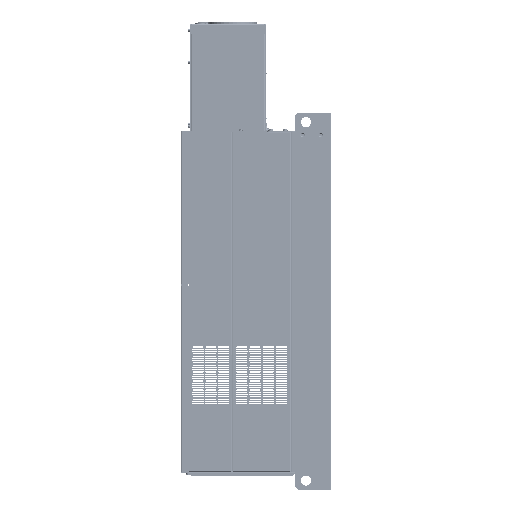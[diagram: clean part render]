
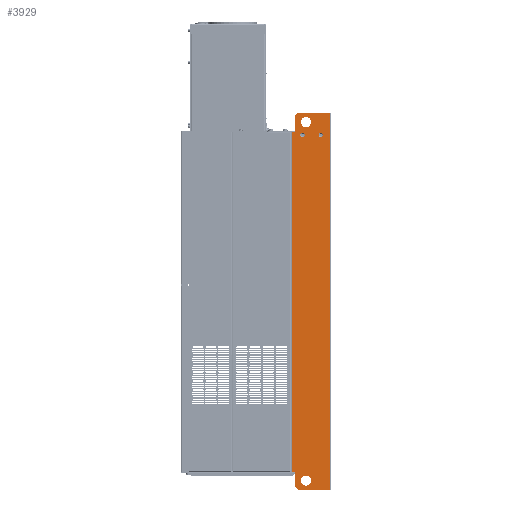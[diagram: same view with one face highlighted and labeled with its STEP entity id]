
A CAD part, left-side view. The second image highlights one B-rep face of the part: STEP entity #3929.
In plain terms, the highlighted planar face has unit normal (-1, 0, 0).
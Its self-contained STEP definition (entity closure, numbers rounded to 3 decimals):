
#670=DIRECTION('',(0.,0.,-1.));
#671=VECTOR('',#670,901.6);
#672=CARTESIAN_POINT('',(-250.,104.3,450.));
#673=LINE('',#672,#671);
#687=DIRECTION('',(0.,1.,0.));
#688=VECTOR('',#687,8.);
#689=CARTESIAN_POINT('',(-250.,96.3,450.));
#690=LINE('',#689,#688);
#695=CARTESIAN_POINT('',(-250.,81.3,485.));
#696=DIRECTION('',(1.,0.,0.));
#697=DIRECTION('',(0.,1.,0.));
#698=AXIS2_PLACEMENT_3D('',#695,#696,#697);
#700=DIRECTION('',(0.,-1.,0.));
#701=VECTOR('',#700,77.3);
#702=CARTESIAN_POINT('',(-250.,81.3,500.));
#703=LINE('',#702,#701);
#704=DIRECTION('',(0.,1.,0.));
#705=VECTOR('',#704,77.3);
#706=CARTESIAN_POINT('',(-250.,4.,-500.));
#707=LINE('',#706,#705);
#708=CARTESIAN_POINT('',(-250.,81.3,-485.));
#709=DIRECTION('',(1.,0.,0.));
#710=DIRECTION('',(0.,0.,-1.));
#711=AXIS2_PLACEMENT_3D('',#708,#709,#710);
#713=DIRECTION('',(0.,1.,0.));
#714=VECTOR('',#713,8.);
#715=CARTESIAN_POINT('',(-250.,96.3,-451.6));
#716=LINE('',#715,#714);
#717=CARTESIAN_POINT('',(-250.,66.3,475.));
#718=DIRECTION('',(-1.,0.,0.));
#719=DIRECTION('',(0.,0.,-1.));
#720=AXIS2_PLACEMENT_3D('',#717,#718,#719);
#722=CARTESIAN_POINT('',(-250.,66.3,475.));
#723=DIRECTION('',(-1.,0.,0.));
#724=DIRECTION('',(0.,0.,1.));
#725=AXIS2_PLACEMENT_3D('',#722,#723,#724);
#727=CARTESIAN_POINT('',(-250.,66.3,-475.));
#728=DIRECTION('',(-1.,0.,0.));
#729=DIRECTION('',(0.,0.,-1.));
#730=AXIS2_PLACEMENT_3D('',#727,#728,#729);
#732=CARTESIAN_POINT('',(-250.,66.3,-475.));
#733=DIRECTION('',(-1.,0.,0.));
#734=DIRECTION('',(0.,0.,1.));
#735=AXIS2_PLACEMENT_3D('',#732,#733,#734);
#737=CARTESIAN_POINT('',(-250.,69.424,440.986));
#738=CARTESIAN_POINT('',(-250.,69.441,441.818));
#739=CARTESIAN_POINT('',(-250.,69.728,443.294));
#740=CARTESIAN_POINT('',(-250.,71.072,445.287));
#741=CARTESIAN_POINT('',(-250.,72.942,446.53));
#742=CARTESIAN_POINT('',(-250.,75.213,447.021));
#743=CARTESIAN_POINT('',(-250.,77.493,446.601));
#744=CARTESIAN_POINT('',(-250.,79.411,445.391));
#745=CARTESIAN_POINT('',(-250.,80.809,443.48));
#746=CARTESIAN_POINT('',(-250.,81.137,441.88));
#747=CARTESIAN_POINT('',(-250.,81.176,441.014));
#749=CARTESIAN_POINT('',(-250.,81.176,441.014));
#750=CARTESIAN_POINT('',(-250.,81.159,440.182));
#751=CARTESIAN_POINT('',(-250.,80.872,438.706));
#752=CARTESIAN_POINT('',(-250.,79.528,436.713));
#753=CARTESIAN_POINT('',(-250.,77.658,435.47));
#754=CARTESIAN_POINT('',(-250.,75.387,434.979));
#755=CARTESIAN_POINT('',(-250.,73.107,435.399));
#756=CARTESIAN_POINT('',(-250.,71.189,436.609));
#757=CARTESIAN_POINT('',(-250.,69.791,438.52));
#758=CARTESIAN_POINT('',(-250.,69.463,440.12));
#759=CARTESIAN_POINT('',(-250.,69.424,440.986));
#761=CARTESIAN_POINT('',(-250.,21.424,440.986));
#762=CARTESIAN_POINT('',(-250.,21.441,441.818));
#763=CARTESIAN_POINT('',(-250.,21.728,443.294));
#764=CARTESIAN_POINT('',(-250.,23.072,445.287));
#765=CARTESIAN_POINT('',(-250.,24.942,446.53));
#766=CARTESIAN_POINT('',(-250.,27.213,447.021));
#767=CARTESIAN_POINT('',(-250.,29.493,446.601));
#768=CARTESIAN_POINT('',(-250.,31.411,445.391));
#769=CARTESIAN_POINT('',(-250.,32.809,443.48));
#770=CARTESIAN_POINT('',(-250.,33.137,441.88));
#771=CARTESIAN_POINT('',(-250.,33.176,441.014));
#773=CARTESIAN_POINT('',(-250.,33.176,441.014));
#774=CARTESIAN_POINT('',(-250.,33.159,440.182));
#775=CARTESIAN_POINT('',(-250.,32.872,438.706));
#776=CARTESIAN_POINT('',(-250.,31.528,436.713));
#777=CARTESIAN_POINT('',(-250.,29.658,435.47));
#778=CARTESIAN_POINT('',(-250.,27.387,434.979));
#779=CARTESIAN_POINT('',(-250.,25.107,435.399));
#780=CARTESIAN_POINT('',(-250.,23.189,436.609));
#781=CARTESIAN_POINT('',(-250.,21.791,438.52));
#782=CARTESIAN_POINT('',(-250.,21.463,440.12));
#783=CARTESIAN_POINT('',(-250.,21.424,440.986));
#785=DIRECTION('',(0.,0.,-1.));
#786=VECTOR('',#785,1.6);
#787=CARTESIAN_POINT('',(-250.,96.3,451.6));
#788=LINE('',#787,#786);
#793=DIRECTION('',(0.,0.,-1.));
#794=VECTOR('',#793,14.229);
#795=CARTESIAN_POINT('',(-250.,96.3,465.829));
#796=LINE('',#795,#794);
#801=DIRECTION('',(0.,0.,-1.));
#802=VECTOR('',#801,19.171);
#803=CARTESIAN_POINT('',(-250.,96.3,485.));
#804=LINE('',#803,#802);
#1099=DIRECTION('',(0.,0.,-1.));
#1100=VECTOR('',#1099,33.4);
#1101=CARTESIAN_POINT('',(-250.,96.3,-451.6));
#1102=LINE('',#1101,#1100);
#1160=DIRECTION('',(0.,0.,1.));
#1161=VECTOR('',#1160,1000.);
#1162=CARTESIAN_POINT('',(-250.,4.,-500.));
#1163=LINE('',#1162,#1161);
#3014=CARTESIAN_POINT('',(-250.,104.3,450.));
#3015=VERTEX_POINT('',#3014);
#3016=CARTESIAN_POINT('',(-250.,104.3,-451.6));
#3017=VERTEX_POINT('',#3016);
#3018=CARTESIAN_POINT('',(-250.,96.3,450.));
#3019=VERTEX_POINT('',#3018);
#3020=CARTESIAN_POINT('',(-250.,96.3,451.6));
#3021=VERTEX_POINT('',#3020);
#3022=CARTESIAN_POINT('',(-250.,96.3,465.829));
#3023=VERTEX_POINT('',#3022);
#3024=CARTESIAN_POINT('',(-250.,96.3,485.));
#3025=VERTEX_POINT('',#3024);
#3026=CARTESIAN_POINT('',(-250.,81.3,500.));
#3027=VERTEX_POINT('',#3026);
#3028=CARTESIAN_POINT('',(-250.,4.,500.));
#3029=VERTEX_POINT('',#3028);
#3030=CARTESIAN_POINT('',(-250.,4.,-500.));
#3031=VERTEX_POINT('',#3030);
#3032=CARTESIAN_POINT('',(-250.,81.3,-500.));
#3033=VERTEX_POINT('',#3032);
#3034=CARTESIAN_POINT('',(-250.,96.3,-485.));
#3035=VERTEX_POINT('',#3034);
#3036=CARTESIAN_POINT('',(-250.,96.3,-451.6));
#3037=VERTEX_POINT('',#3036);
#3038=CARTESIAN_POINT('',(-250.,66.3,461.5));
#3039=CARTESIAN_POINT('',(-250.,66.3,488.5));
#3040=VERTEX_POINT('',#3038);
#3041=VERTEX_POINT('',#3039);
#3042=CARTESIAN_POINT('',(-250.,66.3,-488.5));
#3043=CARTESIAN_POINT('',(-250.,66.3,-461.5));
#3044=VERTEX_POINT('',#3042);
#3045=VERTEX_POINT('',#3043);
#3046=VERTEX_POINT('',#737);
#3047=VERTEX_POINT('',#747);
#3048=VERTEX_POINT('',#761);
#3049=VERTEX_POINT('',#771);
#3876=CARTESIAN_POINT('',(-250.,2.,-262.4));
#3877=DIRECTION('',(-1.,0.,0.));
#3878=DIRECTION('',(0.,0.,1.));
#3879=AXIS2_PLACEMENT_3D('',#3876,#3877,#3878);
#3880=PLANE('',#3879);
#3881=ORIENTED_EDGE('',*,*,#3867,.F.);
#3883=ORIENTED_EDGE('',*,*,#3882,.F.);
#3885=ORIENTED_EDGE('',*,*,#3884,.F.);
#3887=ORIENTED_EDGE('',*,*,#3886,.F.);
#3889=ORIENTED_EDGE('',*,*,#3888,.T.);
#3891=ORIENTED_EDGE('',*,*,#3890,.T.);
#3893=ORIENTED_EDGE('',*,*,#3892,.F.);
#3895=ORIENTED_EDGE('',*,*,#3894,.T.);
#3897=ORIENTED_EDGE('',*,*,#3896,.T.);
#3899=ORIENTED_EDGE('',*,*,#3898,.F.);
#3901=ORIENTED_EDGE('',*,*,#3900,.T.);
#3902=ORIENTED_EDGE('',*,*,#3842,.F.);
#3903=EDGE_LOOP('',(#3881,#3883,#3885,#3887,#3889,#3891,#3893,#3895,#3897,#3899,
#3901,#3902));
#3904=FACE_OUTER_BOUND('',#3903,.F.);
#3906=ORIENTED_EDGE('',*,*,#3905,.T.);
#3908=ORIENTED_EDGE('',*,*,#3907,.T.);
#3909=EDGE_LOOP('',(#3906,#3908));
#3910=FACE_BOUND('',#3909,.F.);
#3912=ORIENTED_EDGE('',*,*,#3911,.T.);
#3914=ORIENTED_EDGE('',*,*,#3913,.T.);
#3915=EDGE_LOOP('',(#3912,#3914));
#3916=FACE_BOUND('',#3915,.F.);
#3918=ORIENTED_EDGE('',*,*,#3917,.T.);
#3920=ORIENTED_EDGE('',*,*,#3919,.T.);
#3921=EDGE_LOOP('',(#3918,#3920));
#3922=FACE_BOUND('',#3921,.F.);
#3924=ORIENTED_EDGE('',*,*,#3923,.T.);
#3926=ORIENTED_EDGE('',*,*,#3925,.T.);
#3927=EDGE_LOOP('',(#3924,#3926));
#3928=FACE_BOUND('',#3927,.F.);
#699=CIRCLE('',#698,15.);
#712=CIRCLE('',#711,15.);
#721=CIRCLE('',#720,13.5);
#726=CIRCLE('',#725,13.5);
#731=CIRCLE('',#730,13.5);
#736=CIRCLE('',#735,13.5);
#748=B_SPLINE_CURVE_WITH_KNOTS('',3,(#737,#738,#739,#740,#741,#742,#743,#744,
#745,#746,#747),.UNSPECIFIED.,.F.,.F.,(4,1,1,1,1,1,1,1,4),(0.,0.125,0.25,
0.375,0.5,0.625,0.75,0.875,1.),.UNSPECIFIED.);
#760=B_SPLINE_CURVE_WITH_KNOTS('',3,(#749,#750,#751,#752,#753,#754,#755,#756,
#757,#758,#759),.UNSPECIFIED.,.F.,.F.,(4,1,1,1,1,1,1,1,4),(0.,0.125,0.25,
0.375,0.5,0.625,0.75,0.875,1.),.UNSPECIFIED.);
#772=B_SPLINE_CURVE_WITH_KNOTS('',3,(#761,#762,#763,#764,#765,#766,#767,#768,
#769,#770,#771),.UNSPECIFIED.,.F.,.F.,(4,1,1,1,1,1,1,1,4),(0.,0.125,0.25,
0.375,0.5,0.625,0.75,0.875,1.),.UNSPECIFIED.);
#784=B_SPLINE_CURVE_WITH_KNOTS('',3,(#773,#774,#775,#776,#777,#778,#779,#780,
#781,#782,#783),.UNSPECIFIED.,.F.,.F.,(4,1,1,1,1,1,1,1,4),(0.,0.125,0.25,
0.375,0.5,0.625,0.75,0.875,1.),.UNSPECIFIED.);
#3842=EDGE_CURVE('',#3015,#3017,#673,.T.);
#3867=EDGE_CURVE('',#3019,#3015,#690,.T.);
#3882=EDGE_CURVE('',#3021,#3019,#788,.T.);
#3884=EDGE_CURVE('',#3023,#3021,#796,.T.);
#3886=EDGE_CURVE('',#3025,#3023,#804,.T.);
#3888=EDGE_CURVE('',#3025,#3027,#699,.T.);
#3890=EDGE_CURVE('',#3027,#3029,#703,.T.);
#3892=EDGE_CURVE('',#3031,#3029,#1163,.T.);
#3894=EDGE_CURVE('',#3031,#3033,#707,.T.);
#3896=EDGE_CURVE('',#3033,#3035,#712,.T.);
#3898=EDGE_CURVE('',#3037,#3035,#1102,.T.);
#3900=EDGE_CURVE('',#3037,#3017,#716,.T.);
#3905=EDGE_CURVE('',#3040,#3041,#721,.T.);
#3907=EDGE_CURVE('',#3041,#3040,#726,.T.);
#3911=EDGE_CURVE('',#3044,#3045,#731,.T.);
#3913=EDGE_CURVE('',#3045,#3044,#736,.T.);
#3917=EDGE_CURVE('',#3046,#3047,#748,.T.);
#3919=EDGE_CURVE('',#3047,#3046,#760,.T.);
#3923=EDGE_CURVE('',#3048,#3049,#772,.T.);
#3925=EDGE_CURVE('',#3049,#3048,#784,.T.);
#3929=ADVANCED_FACE('',(#3904,#3910,#3916,#3922,#3928),#3880,.T.);
